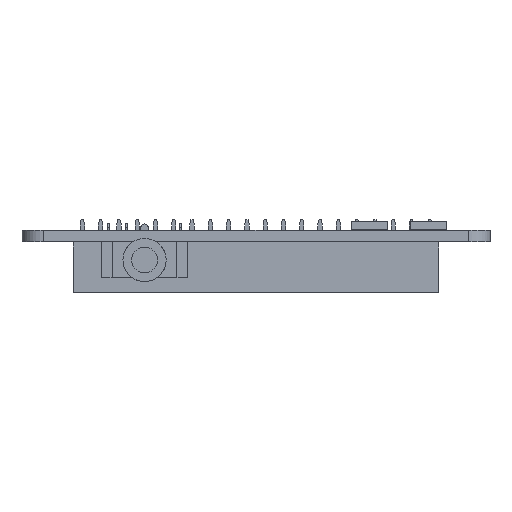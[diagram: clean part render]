
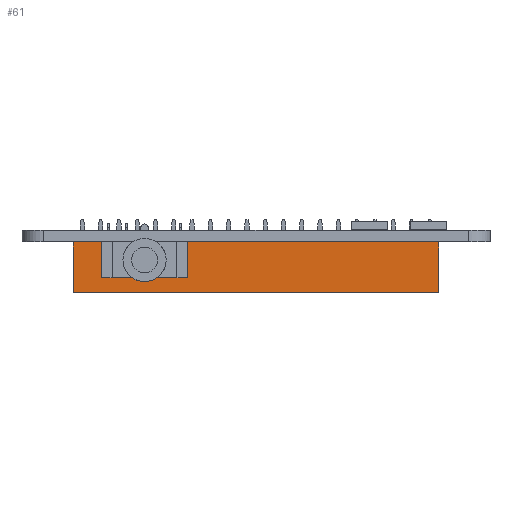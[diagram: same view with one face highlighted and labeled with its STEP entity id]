
A CAD part, front view. The second image highlights one B-rep face of the part: STEP entity #61.
In plain terms, the highlighted planar face has unit normal (0, -1, 0) as drawn and (1, 0, 0) by its records, which use the part's own axes.
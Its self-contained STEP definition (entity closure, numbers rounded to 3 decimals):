
#61 = ADVANCED_FACE('',(#62),#76,.F.);
#62 = FACE_BOUND('',#63,.F.);
#63 = EDGE_LOOP('',(#64,#99,#127,#155));
#64 = ORIENTED_EDGE('',*,*,#65,.T.);
#65 = EDGE_CURVE('',#66,#68,#70,.T.);
#66 = VERTEX_POINT('',#67);
#67 = CARTESIAN_POINT('',(1.27,-49.53,0.));
#68 = VERTEX_POINT('',#69);
#69 = CARTESIAN_POINT('',(1.27,-49.53,7.));
#70 = SURFACE_CURVE('',#71,(#75,#87),.PCURVE_S1.);
#71 = LINE('',#72,#73);
#72 = CARTESIAN_POINT('',(1.27,-49.53,0.));
#73 = VECTOR('',#74,1.);
#74 = DIRECTION('',(0.,0.,1.));
#75 = PCURVE('',#76,#81);
#76 = PLANE('',#77);
#77 = AXIS2_PLACEMENT_3D('',#78,#79,#80);
#78 = CARTESIAN_POINT('',(1.27,-49.53,0.));
#79 = DIRECTION('',(-1.,0.,0.));
#80 = DIRECTION('',(0.,1.,0.));
#81 = DEFINITIONAL_REPRESENTATION('',(#82),#86);
#82 = LINE('',#83,#84);
#83 = CARTESIAN_POINT('',(0.,0.));
#84 = VECTOR('',#85,1.);
#85 = DIRECTION('',(0.,-1.));
#86 = ( GEOMETRIC_REPRESENTATION_CONTEXT(2) 
PARAMETRIC_REPRESENTATION_CONTEXT() REPRESENTATION_CONTEXT('2D SPACE',''
  ) );
#87 = PCURVE('',#88,#93);
#88 = PLANE('',#89);
#89 = AXIS2_PLACEMENT_3D('',#90,#91,#92);
#90 = CARTESIAN_POINT('',(-3.81,-49.53,0.));
#91 = DIRECTION('',(0.,1.,0.));
#92 = DIRECTION('',(1.,0.,0.));
#93 = DEFINITIONAL_REPRESENTATION('',(#94),#98);
#94 = LINE('',#95,#96);
#95 = CARTESIAN_POINT('',(5.08,0.));
#96 = VECTOR('',#97,1.);
#97 = DIRECTION('',(0.,-1.));
#98 = ( GEOMETRIC_REPRESENTATION_CONTEXT(2) 
PARAMETRIC_REPRESENTATION_CONTEXT() REPRESENTATION_CONTEXT('2D SPACE',''
  ) );
#99 = ORIENTED_EDGE('',*,*,#100,.T.);
#100 = EDGE_CURVE('',#68,#101,#103,.T.);
#101 = VERTEX_POINT('',#102);
#102 = CARTESIAN_POINT('',(1.27,1.27,7.));
#103 = SURFACE_CURVE('',#104,(#108,#115),.PCURVE_S1.);
#104 = LINE('',#105,#106);
#105 = CARTESIAN_POINT('',(1.27,-49.53,7.));
#106 = VECTOR('',#107,1.);
#107 = DIRECTION('',(0.,1.,0.));
#108 = PCURVE('',#76,#109);
#109 = DEFINITIONAL_REPRESENTATION('',(#110),#114);
#110 = LINE('',#111,#112);
#111 = CARTESIAN_POINT('',(0.,-7.));
#112 = VECTOR('',#113,1.);
#113 = DIRECTION('',(1.,0.));
#114 = ( GEOMETRIC_REPRESENTATION_CONTEXT(2) 
PARAMETRIC_REPRESENTATION_CONTEXT() REPRESENTATION_CONTEXT('2D SPACE',''
  ) );
#115 = PCURVE('',#116,#121);
#116 = PLANE('',#117);
#117 = AXIS2_PLACEMENT_3D('',#118,#119,#120);
#118 = CARTESIAN_POINT('',(1.27,-49.53,7.));
#119 = DIRECTION('',(-0.,0.,-1.));
#120 = DIRECTION('',(0.,-1.,-0.));
#121 = DEFINITIONAL_REPRESENTATION('',(#122),#126);
#122 = LINE('',#123,#124);
#123 = CARTESIAN_POINT('',(0.,0.));
#124 = VECTOR('',#125,1.);
#125 = DIRECTION('',(-1.,0.));
#126 = ( GEOMETRIC_REPRESENTATION_CONTEXT(2) 
PARAMETRIC_REPRESENTATION_CONTEXT() REPRESENTATION_CONTEXT('2D SPACE',''
  ) );
#127 = ORIENTED_EDGE('',*,*,#128,.F.);
#128 = EDGE_CURVE('',#129,#101,#131,.T.);
#129 = VERTEX_POINT('',#130);
#130 = CARTESIAN_POINT('',(1.27,1.27,0.));
#131 = SURFACE_CURVE('',#132,(#136,#143),.PCURVE_S1.);
#132 = LINE('',#133,#134);
#133 = CARTESIAN_POINT('',(1.27,1.27,0.));
#134 = VECTOR('',#135,1.);
#135 = DIRECTION('',(0.,0.,1.));
#136 = PCURVE('',#76,#137);
#137 = DEFINITIONAL_REPRESENTATION('',(#138),#142);
#138 = LINE('',#139,#140);
#139 = CARTESIAN_POINT('',(50.8,0.));
#140 = VECTOR('',#141,1.);
#141 = DIRECTION('',(0.,-1.));
#142 = ( GEOMETRIC_REPRESENTATION_CONTEXT(2) 
PARAMETRIC_REPRESENTATION_CONTEXT() REPRESENTATION_CONTEXT('2D SPACE',''
  ) );
#143 = PCURVE('',#144,#149);
#144 = PLANE('',#145);
#145 = AXIS2_PLACEMENT_3D('',#146,#147,#148);
#146 = CARTESIAN_POINT('',(1.27,1.27,0.));
#147 = DIRECTION('',(0.,-1.,0.));
#148 = DIRECTION('',(-1.,0.,0.));
#149 = DEFINITIONAL_REPRESENTATION('',(#150),#154);
#150 = LINE('',#151,#152);
#151 = CARTESIAN_POINT('',(0.,0.));
#152 = VECTOR('',#153,1.);
#153 = DIRECTION('',(0.,-1.));
#154 = ( GEOMETRIC_REPRESENTATION_CONTEXT(2) 
PARAMETRIC_REPRESENTATION_CONTEXT() REPRESENTATION_CONTEXT('2D SPACE',''
  ) );
#155 = ORIENTED_EDGE('',*,*,#156,.F.);
#156 = EDGE_CURVE('',#66,#129,#157,.T.);
#157 = SURFACE_CURVE('',#158,(#162,#169),.PCURVE_S1.);
#158 = LINE('',#159,#160);
#159 = CARTESIAN_POINT('',(1.27,-49.53,0.));
#160 = VECTOR('',#161,1.);
#161 = DIRECTION('',(0.,1.,0.));
#162 = PCURVE('',#76,#163);
#163 = DEFINITIONAL_REPRESENTATION('',(#164),#168);
#164 = LINE('',#165,#166);
#165 = CARTESIAN_POINT('',(0.,0.));
#166 = VECTOR('',#167,1.);
#167 = DIRECTION('',(1.,0.));
#168 = ( GEOMETRIC_REPRESENTATION_CONTEXT(2) 
PARAMETRIC_REPRESENTATION_CONTEXT() REPRESENTATION_CONTEXT('2D SPACE',''
  ) );
#169 = PCURVE('',#170,#175);
#170 = PLANE('',#171);
#171 = AXIS2_PLACEMENT_3D('',#172,#173,#174);
#172 = CARTESIAN_POINT('',(1.27,-49.53,0.));
#173 = DIRECTION('',(-0.,0.,-1.));
#174 = DIRECTION('',(0.,-1.,-0.));
#175 = DEFINITIONAL_REPRESENTATION('',(#176),#180);
#176 = LINE('',#177,#178);
#177 = CARTESIAN_POINT('',(0.,0.));
#178 = VECTOR('',#179,1.);
#179 = DIRECTION('',(-1.,0.));
#180 = ( GEOMETRIC_REPRESENTATION_CONTEXT(2) 
PARAMETRIC_REPRESENTATION_CONTEXT() REPRESENTATION_CONTEXT('2D SPACE',''
  ) );
